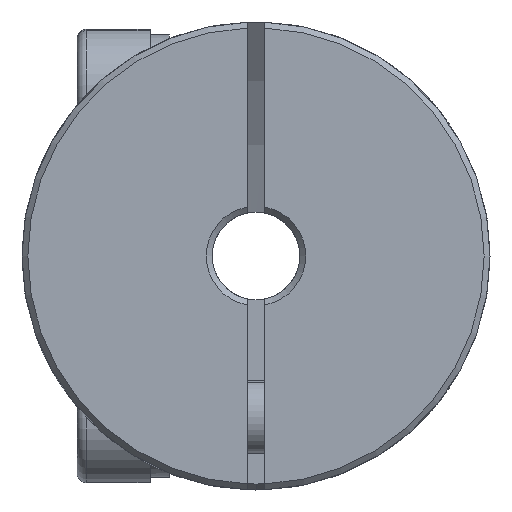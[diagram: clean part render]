
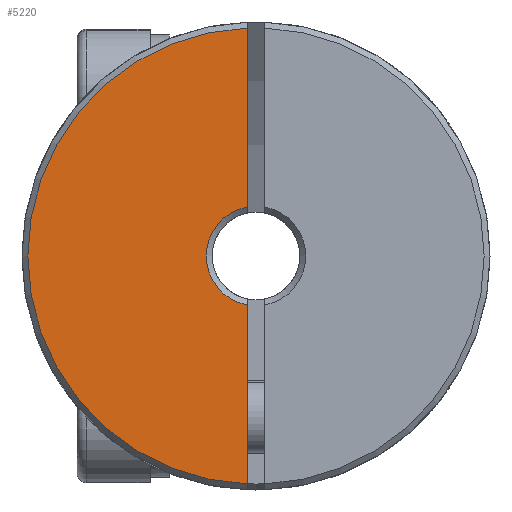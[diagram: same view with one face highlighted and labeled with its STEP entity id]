
A CAD part, front view. The second image highlights one B-rep face of the part: STEP entity #5220.
In plain terms, the highlighted planar face has unit normal (0, -1, 0).
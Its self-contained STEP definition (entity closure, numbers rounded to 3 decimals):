
#112 = DIRECTION ( 'NONE',  ( 0., 0., -1. ) ) ;
#140 = EDGE_CURVE ( 'NONE', #6930, #4547, #5526, .T. ) ;
#220 = EDGE_CURVE ( 'NONE', #6930, #1357, #6536, .T. ) ;
#376 = VECTOR ( 'NONE', #112, 1000. ) ;
#462 = DIRECTION ( 'NONE',  ( 0., 0., -1. ) ) ;
#823 = DIRECTION ( 'NONE',  ( 0., 0., 1. ) ) ;
#1357 = VERTEX_POINT ( 'NONE', #1727 ) ;
#1509 = DIRECTION ( 'NONE',  ( 0., 0., 1. ) ) ;
#1662 = FACE_OUTER_BOUND ( 'NONE', #6327, .T. ) ;
#1725 = EDGE_CURVE ( 'NONE', #3315, #4547, #6474, .T. ) ;
#1727 = CARTESIAN_POINT ( 'NONE',  ( -0.3, -15.02, 1.673 ) ) ;
#1820 = LINE ( 'NONE', #3976, #5118 ) ;
#2108 = CARTESIAN_POINT ( 'NONE',  ( 0., -15.02, 0. ) ) ;
#2575 = CARTESIAN_POINT ( 'NONE',  ( 0., -15.02, 0. ) ) ;
#3188 = DIRECTION ( 'NONE',  ( 0., 1., 0. ) ) ;
#3315 = VERTEX_POINT ( 'NONE', #5663 ) ;
#3520 = AXIS2_PLACEMENT_3D ( 'NONE', #4052, #5717, #6384 ) ;
#3850 = DIRECTION ( 'NONE',  ( 0., -1., 0. ) ) ;
#3854 = CARTESIAN_POINT ( 'NONE',  ( -0.3, -15.02, -7.794 ) ) ;
#3859 = ORIENTED_EDGE ( 'NONE', *, *, #140, .F. ) ;
#3976 = CARTESIAN_POINT ( 'NONE',  ( -0.3, -15.02, 0. ) ) ;
#4052 = CARTESIAN_POINT ( 'NONE',  ( 0., -15.02, 0. ) ) ;
#4067 = ORIENTED_EDGE ( 'NONE', *, *, #1725, .T. ) ;
#4350 = AXIS2_PLACEMENT_3D ( 'NONE', #2575, #3188, #823 ) ;
#4547 = VERTEX_POINT ( 'NONE', #3854 ) ;
#5118 = VECTOR ( 'NONE', #462, 1000. ) ;
#5220 = ADVANCED_FACE ( 'NONE', ( #1662 ), #6861, .F. ) ;
#5347 = ORIENTED_EDGE ( 'NONE', *, *, #7610, .F. ) ;
#5408 = CARTESIAN_POINT ( 'NONE',  ( -0.3, -15.02, -1.673 ) ) ;
#5526 = LINE ( 'NONE', #7133, #376 ) ;
#5663 = CARTESIAN_POINT ( 'NONE',  ( -0.3, -15.02, 7.794 ) ) ;
#5717 = DIRECTION ( 'NONE',  ( 0., 1., 0. ) ) ;
#6327 = EDGE_LOOP ( 'NONE', ( #5347, #4067, #3859, #7531 ) ) ;
#6384 = DIRECTION ( 'NONE',  ( 0., 0., 1. ) ) ;
#6453 = AXIS2_PLACEMENT_3D ( 'NONE', #2108, #3850, #1509 ) ;
#6474 = CIRCLE ( 'NONE', #6453, 7.8 ) ;
#6536 = CIRCLE ( 'NONE', #4350, 1.7 ) ;
#6861 = PLANE ( 'NONE',  #3520 ) ;
#6930 = VERTEX_POINT ( 'NONE', #5408 ) ;
#7133 = CARTESIAN_POINT ( 'NONE',  ( -0.3, -15.02, 0. ) ) ;
#7531 = ORIENTED_EDGE ( 'NONE', *, *, #220, .T. ) ;
#7610 = EDGE_CURVE ( 'NONE', #3315, #1357, #1820, .T. ) ;
